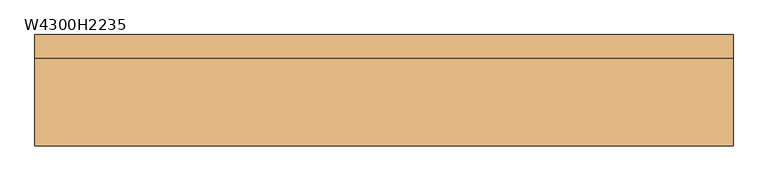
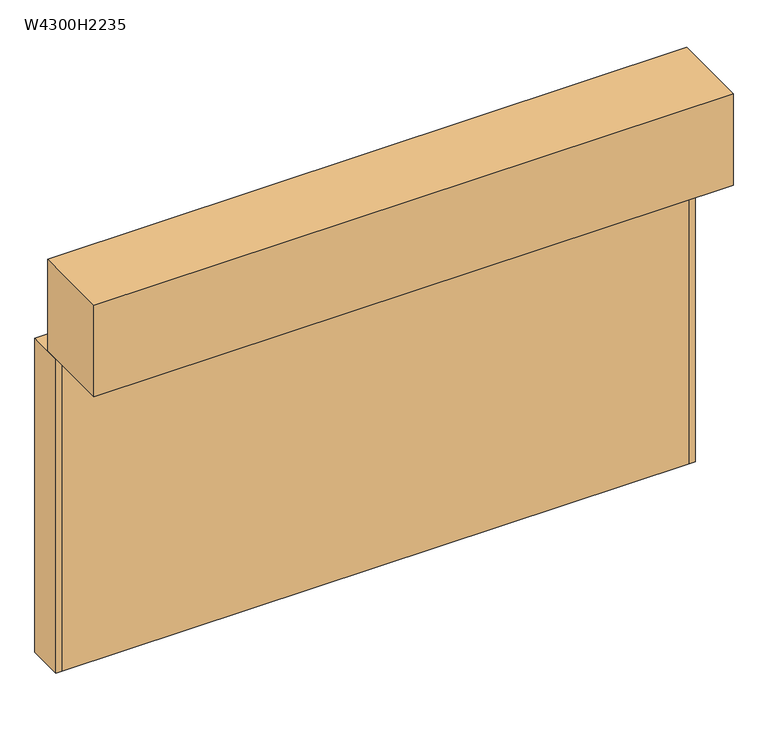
"""IFC4 building model written with IfcOpenShell, lengths in millimetres: door geometry, シャッター : W4300H2235."""

from ifc_helpers import new_model, si_unit, frame, origin, origin_with_axes, place, context, project, spatial, polyline, outline, extrude, source, transform, mapped, element, save


def w4300h2235_341fbf0f(model_context):
    return source(origin(), model_context, "Body", "SweptSolid", [
        extrude(outline(polyline([(0.0, -2150.0), (2235.0, -2150.0), (2235.0, 2150.0), (0.0, 2150.0), (0.0, 2190.0), (2275.0, 2190.0), (2275.0, -2190.0), (0.0, -2190.0), (0.0, -2150.0)])), frame((0.0, -175.0, 0.0), z_axis=(0.0, 1.0, 0.0), x_axis=(0.0, 0.0, 1.0)), (0.0, 0.0, 1.0), 250.0),
        extrude(outline(polyline([(2190.0, -75.0), (2190.0, -625.0), (-2190.0, -625.0), (-2190.0, -75.0), (2190.0, -75.0)])), frame((0.0, 0.0, 2275.0), z_axis=(0.0, 0.0, 1.0), x_axis=(1.0, 0.0, 0.0)), (0.0, 0.0, 1.0), 665.0),
        extrude(outline(polyline([(2150.0, -115.0), (2150.0, -175.0), (-2150.0, -175.0), (-2150.0, -115.0), (2150.0, -115.0)])), origin_with_axes(), (0.0, 0.0, 1.0), 2235.0),
    ])


if __name__ == "__main__":
    model = new_model("IFC4")
    model_context = context("Model", 3, world=origin())
    ifc_project = project(units=[si_unit("LENGTHUNIT", "METRE", prefix="MILLI")], contexts=[model_context])
    site = spatial("IfcSite", under=ifc_project)
    building = spatial("IfcBuilding", under=site)
    placement = place(None, origin())
    w4300h2235_shape = w4300h2235_341fbf0f(model_context)
    element("IfcDoor", 1, ObjectType="シャッター : W4300H2235", at=placement, inside=building, context=model_context, shape_type="MappedRepresentation", body=[
        mapped(w4300h2235_shape, transform((0.0, 0.0, 0.0), x_axis=(1.0, 0.0, 0.0), y_axis=(0.0, 1.0, 0.0), z_axis=(0.0, 0.0, 1.0))),
    ])
    save(model, "model.ifc")
